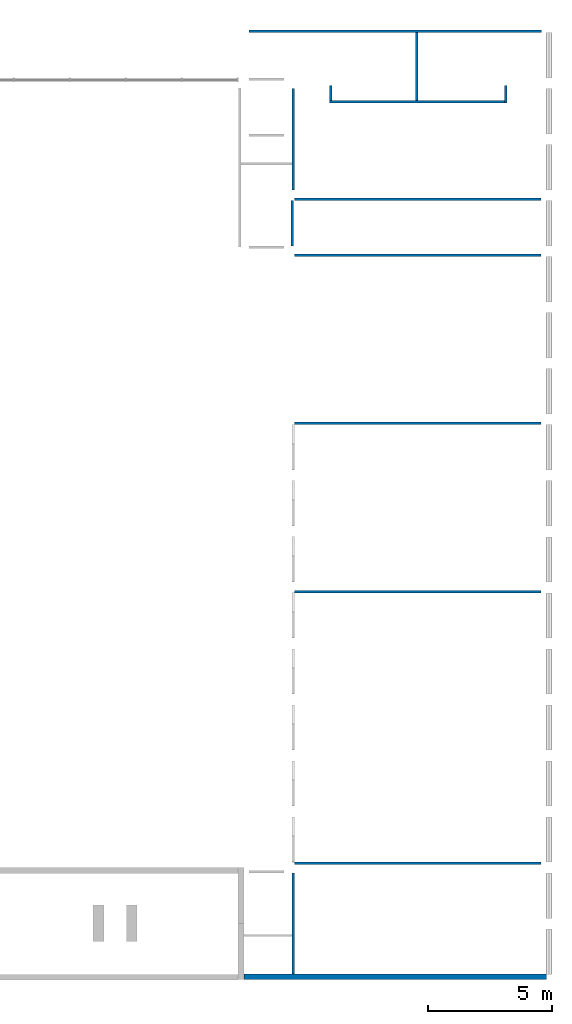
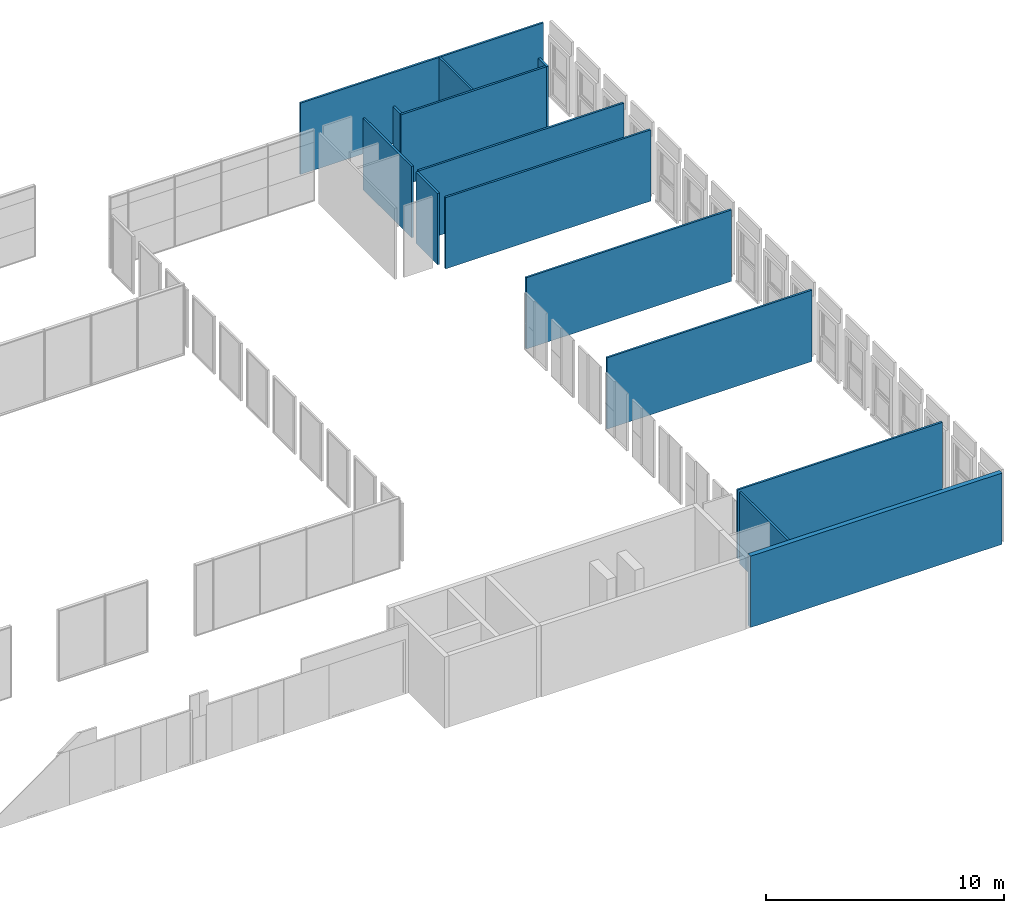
# One storey, part 12 of 15: 14 walls.
"""IFC2X3 building model written with IfcOpenShell, lengths in millimetres."""

from ifc_helpers import new_model, entity, si_unit, converted_unit, derived_unit, direction, frame, frame_2d, origin, place, context, subcontext, project, spatial, polyline, rectangle, extrude, clip, bounded_halfspace, material, layer, layer_set, layer_usage, type_object, element, save


model = new_model("IFC2X3")

# Units and contexts
model_context = context("Model", 3, precision=0.01, world=origin(), true_north=direction((6.12303176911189e-17, 1.0)))
body_context = subcontext(model_context, "Body", "Model", "MODEL_VIEW")
ifc_project = project(units=[si_unit("LENGTHUNIT", "METRE", prefix="MILLI"), si_unit("AREAUNIT", "SQUARE_METRE"), si_unit("VOLUMEUNIT", "CUBIC_METRE"), converted_unit("PLANEANGLEUNIT", "DEGREE", entity("IfcRatioMeasure", 0.0174532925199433), si_unit("PLANEANGLEUNIT", "RADIAN"), dimensions=[0, 0, 0, 0, 0, 0, 0]), si_unit("MASSUNIT", "GRAM", prefix="KILO"), derived_unit("MASSDENSITYUNIT", [(si_unit("MASSUNIT", "GRAM", prefix="KILO"), 1), (si_unit("LENGTHUNIT", "METRE"), -3)]), derived_unit("MOMENTOFINERTIAUNIT", [(si_unit("LENGTHUNIT", "METRE"), 4)]), si_unit("TIMEUNIT", "SECOND"), si_unit("FREQUENCYUNIT", "HERTZ"), si_unit("THERMODYNAMICTEMPERATUREUNIT", "DEGREE_CELSIUS"), derived_unit("THERMALTRANSMITTANCEUNIT", [(si_unit("MASSUNIT", "GRAM", prefix="KILO"), 1), (si_unit("THERMODYNAMICTEMPERATUREUNIT", "KELVIN"), -1), (si_unit("TIMEUNIT", "SECOND"), -3)]), derived_unit("VOLUMETRICFLOWRATEUNIT", [(si_unit("LENGTHUNIT", "METRE"), 3), (si_unit("TIMEUNIT", "SECOND"), -1)]), si_unit("ELECTRICCURRENTUNIT", "AMPERE"), si_unit("ELECTRICVOLTAGEUNIT", "VOLT"), si_unit("POWERUNIT", "WATT"), si_unit("FORCEUNIT", "NEWTON", prefix="KILO"), si_unit("ILLUMINANCEUNIT", "LUX"), si_unit("LUMINOUSFLUXUNIT", "LUMEN"), si_unit("LUMINOUSINTENSITYUNIT", "CANDELA"), derived_unit("USERDEFINED", [(si_unit("MASSUNIT", "GRAM", prefix="KILO"), -1), (si_unit("LENGTHUNIT", "METRE"), -2), (si_unit("TIMEUNIT", "SECOND"), 3), (si_unit("LUMINOUSFLUXUNIT", "LUMEN"), 1)]), derived_unit("LINEARVELOCITYUNIT", [(si_unit("LENGTHUNIT", "METRE"), 1), (si_unit("TIMEUNIT", "SECOND"), -1)]), si_unit("PRESSUREUNIT", "PASCAL"), derived_unit("USERDEFINED", [(si_unit("LENGTHUNIT", "METRE"), -2), (si_unit("MASSUNIT", "GRAM", prefix="KILO"), 1), (si_unit("TIMEUNIT", "SECOND"), -2)]), derived_unit("LINEARFORCEUNIT", [(si_unit("MASSUNIT", "GRAM", prefix="KILO"), 1), (si_unit("LENGTHUNIT", "METRE"), 1), (si_unit("TIMEUNIT", "SECOND"), -2), (si_unit("LENGTHUNIT", "METRE"), -1)]), derived_unit("PLANARFORCEUNIT", [(si_unit("MASSUNIT", "GRAM", prefix="KILO"), 1), (si_unit("LENGTHUNIT", "METRE"), 1), (si_unit("TIMEUNIT", "SECOND"), -2), (si_unit("LENGTHUNIT", "METRE"), -2)])], contexts=[model_context])

# Site, building, storey
site_placement = place(None, frame((10627.5135316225, 21939.0796949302, 0.0)))
site = spatial("IfcSite", under=ifc_project, at=site_placement, Name="Default", CompositionType="ELEMENT")
building_placement = place(site_placement, origin())
building = spatial("IfcBuilding", under=site, at=building_placement, CompositionType="ELEMENT")
storey_placement = place(building_placement, origin())
storey = spatial("IfcBuildingStorey", under=building, at=storey_placement, Name="RDC", CompositionType="ELEMENT", Elevation=0.0)

# Walls
ifc_material_1 = material(Name="Paint - White Lining")
ifc_layer_1 = layer(ifc_material_1, 3.0)
ifc_material_2 = material(Name="Concrete Masonry Units")
ifc_layer_2 = layer(ifc_material_2, 94.0)
ifc_layer_3 = layer(ifc_material_1, 3.0)
ifc_layer_set_1 = layer_set([ifc_layer_1, ifc_layer_2, ifc_layer_3], Name="Basic Wall:Wall-Int 100")
ifc_layer_usage_1 = layer_usage(ifc_layer_set_1, "AXIS2", "NEGATIVE", 50.0)
wall_type_1 = type_object("IfcWallType", Name="Basic Wall:Wall-Int 100", PredefinedType="STANDARD", material=ifc_layer_set_1)
wall_1_placement = place(storey_placement, frame((53565.4864683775, -17634.0796949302, 0.0), z_axis=(0.0, 0.0, 1.0), x_axis=(0.0, -1.0, 0.0)))
element("IfcWallStandardCase", 1, at=wall_1_placement, inside=storey, type_object=wall_type_1, material=ifc_layer_usage_1, Name="Basic Wall:Wall-Int 100", ObjectType="Basic Wall:Wall-Int 100", context=body_context, shape_type="SweptSolid", body=[
    extrude(rectangle(XDim=4075.00000000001, YDim=99.9999999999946, at=frame_2d((2037.5, -1.4210854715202e-14), x_axis=(-1.0, 0.0))), origin(), (0.0, 0.0, 1.0), 3660.0),
])
ifc_layer_usage_2 = layer_usage(ifc_layer_set_1, "AXIS2", "POSITIVE", -50.0)
wall_2_placement = place(storey_placement, frame((53615.4864683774, 495.920305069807, 0.0)))
element("IfcWallStandardCase", 2, at=wall_2_placement, inside=storey, type_object=wall_type_1, material=ifc_layer_usage_2, Name="Basic Wall:Wall-Int 100", ObjectType="Basic Wall:Wall-Int 100", context=body_context, shape_type="SweptSolid", body=[
    extrude(rectangle(XDim=9954.00000000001, YDim=100.0, at=frame_2d((4977.0, 0.0), x_axis=(-1.0, 0.0))), origin(), (0.0, 0.0, 1.0), 3660.0),
])
ifc_layer_usage_3 = layer_usage(ifc_layer_set_1, "AXIS2", "NEGATIVE", 50.0)
wall_3_placement = place(storey_placement, frame((53520.1232861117, 7655.92030506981, 0.0), z_axis=(0.0, 0.0, 1.0), x_axis=(0.0, 1.0, 0.0)))
element("IfcWallStandardCase", 3, at=wall_3_placement, inside=storey, type_object=wall_type_1, material=ifc_layer_usage_3, Name="Basic Wall:Wall-Int 100", ObjectType="Basic Wall:Wall-Int 100", context=body_context, shape_type="SweptSolid", body=[
    extrude(rectangle(XDim=1830.0, YDim=99.9999999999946, at=frame_2d((915.0, 0.0), x_axis=(-1.0, 0.0))), origin(), (0.0, 0.0, 1.0), 3660.0),
])
ifc_layer_usage_4 = layer_usage(ifc_layer_set_1, "AXIS2", "POSITIVE", -50.0)
wall_4_placement = place(storey_placement, frame((53615.4864683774, 9535.92030506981, 0.0)))
element("IfcWallStandardCase", 4, at=wall_4_placement, inside=storey, type_object=wall_type_1, material=ifc_layer_usage_4, Name="Basic Wall:Wall-Int 100", ObjectType="Basic Wall:Wall-Int 100", context=body_context, shape_type="SweptSolid", body=[
    extrude(rectangle(XDim=9951.99999999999, YDim=99.9999999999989, at=frame_2d((4975.99999999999, 0.0), x_axis=(-1.0, 0.0))), origin(), (0.0, 0.0, 1.0), 3660.0),
])
ifc_layer_usage_5 = layer_usage(ifc_layer_set_1, "AXIS2", "NEGATIVE", 50.0)
wall_5_placement = place(storey_placement, frame((63568.4864683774, 7275.92030506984, 0.0), z_axis=(0.0, 0.0, 1.0), x_axis=(-1.0, 0.0, 0.0)))
element("IfcWallStandardCase", 5, at=wall_5_placement, inside=storey, type_object=wall_type_1, material=ifc_layer_usage_5, Name="Basic Wall:Wall-Int 100", ObjectType="Basic Wall:Wall-Int 100", context=body_context, shape_type="SweptSolid", body=[
    extrude(rectangle(XDim=9952.0, YDim=99.9999999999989, at=frame_2d((4976.0, 0.0), x_axis=(-1.0, 0.0))), origin(), (0.0, 0.0, 1.0), 3660.0),
])
ifc_layer_usage_6 = layer_usage(ifc_layer_set_1, "AXIS2", "POSITIVE", -50.0)
wall_6_placement = place(storey_placement, frame((53565.4864683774, 9915.92030506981, 0.0), z_axis=(0.0, 0.0, 1.0), x_axis=(0.0, 1.0, 0.0)))
element("IfcWallStandardCase", 6, at=wall_6_placement, inside=storey, type_object=wall_type_1, material=ifc_layer_usage_6, Name="Basic Wall:Wall-Int 100", ObjectType="Basic Wall:Wall-Int 100", context=body_context, shape_type="SweptSolid", body=[
    extrude(rectangle(XDim=4090.0, YDim=99.9999999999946, at=frame_2d((2045.0, 0.0), x_axis=(-1.0, 0.0))), origin(), (0.0, 0.0, 1.0), 3660.0),
])
ifc_layer_usage_7 = layer_usage(ifc_layer_set_1, "AXIS2", "NEGATIVE", 50.0)
wall_7_placement = place(storey_placement, frame((62135.1334675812, 14119.2390047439, 0.0), z_axis=(0.0, 0.0, 1.0), x_axis=(0.0, -1.0, 0.0)))
element("IfcWallStandardCase", 7, at=wall_7_placement, inside=storey, type_object=wall_type_1, material=ifc_layer_usage_7, Name="Basic Wall:Wall-Int 100", ObjectType="Basic Wall:Wall-Int 100", context=body_context, shape_type="SweptSolid", body=[
    extrude(rectangle(XDim=700.02294544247, YDim=99.9999999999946, at=frame_2d((350.011472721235, 0.0), x_axis=(-1.0, 0.0))), origin(), (0.0, 0.0, 1.0), 3660.0),
])
ifc_layer_usage_8 = layer_usage(ifc_layer_set_1, "AXIS2", "NEGATIVE", 50.0)
wall_8_placement = place(storey_placement, frame((62085.1334675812, 13469.2160593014, 0.0), z_axis=(0.0, 0.0, 1.0), x_axis=(-1.0, 0.0, 0.0)))
element("IfcWallStandardCase", 8, at=wall_8_placement, inside=storey, type_object=wall_type_1, material=ifc_layer_usage_8, Name="Basic Wall:Wall-Int 100", ObjectType="Basic Wall:Wall-Int 100", context=body_context, shape_type="SweptSolid", body=[
    extrude(rectangle(XDim=7055.00849887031, YDim=99.9999999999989, at=frame_2d((3527.50424943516, -8.5265128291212e-14), x_axis=(-1.0, 0.0))), origin(), (0.0, 0.0, 1.0), 3660.0),
])
ifc_layer_usage_9 = layer_usage(ifc_layer_set_1, "AXIS2", "NEGATIVE", 50.0)
wall_9_placement = place(storey_placement, frame((55080.1249687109, 13519.2160593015, 0.0), z_axis=(0.0, 0.0, 1.0), x_axis=(0.0, 1.0, 0.0)))
element("IfcWallStandardCase", 9, at=wall_9_placement, inside=storey, type_object=wall_type_1, material=ifc_layer_usage_9, Name="Basic Wall:Wall-Int 100", ObjectType="Basic Wall:Wall-Int 100", context=body_context, shape_type="SweptSolid", body=[
    extrude(rectangle(XDim=600.00083411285, YDim=99.9999999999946, at=frame_2d((300.000417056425, 0.0), x_axis=(-1.0, 0.0))), origin(), (0.0, 0.0, 1.0), 3660.0),
])
ifc_layer_usage_10 = layer_usage(ifc_layer_set_1, "AXIS2", "POSITIVE", -50.0)
wall_10_placement = place(storey_placement, frame((51787.4864683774, 16315.9203050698, 0.0)))
element("IfcWallStandardCase", 10, at=wall_10_placement, inside=storey, type_object=wall_type_1, material=ifc_layer_usage_10, Name="Basic Wall:Wall-Int 100", ObjectType="Basic Wall:Wall-Int 100", context=body_context, shape_type="SweptSolid", body=[
    extrude(rectangle(XDim=11800.0, YDim=99.9999999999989, at=frame_2d((5900.0, -7.46069872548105e-14), x_axis=(-1.0, 0.0))), origin(), (0.0, 0.0, 1.0), 3660.0),
])
ifc_layer_usage_11 = layer_usage(ifc_layer_set_1, "AXIS2", "POSITIVE", -50.0)
wall_11_placement = place(storey_placement, frame((58557.6292181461, 13519.2160593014, 0.0), z_axis=(0.0, 0.0, 1.0), x_axis=(0.0, 1.0, 0.0)))
element("IfcWallStandardCase", 11, at=wall_11_placement, inside=storey, type_object=wall_type_1, material=ifc_layer_usage_11, Name="Basic Wall:Wall-Int 100", ObjectType="Basic Wall:Wall-Int 100", context=body_context, shape_type="SweptSolid", body=[
    extrude(rectangle(XDim=2746.70424576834, YDim=99.9999999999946, at=frame_2d((1373.35212288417, -1.49213974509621e-13), x_axis=(-1.0, 0.0))), origin(), (0.0, 0.0, 1.0), 3660.0),
])
ifc_layer_usage_12 = layer_usage(ifc_layer_set_1, "AXIS2", "NEGATIVE", 50.0)
wall_12_placement = place(storey_placement, frame((63569.4864683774, -6284.07969493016, 0.0), z_axis=(0.0, 0.0, 1.0), x_axis=(-1.0, 0.0, 0.0)))
element("IfcWallStandardCase", 12, at=wall_12_placement, inside=storey, type_object=wall_type_1, material=ifc_layer_usage_12, Name="Basic Wall:Wall-Int 100", ObjectType="Basic Wall:Wall-Int 100", context=body_context, shape_type="SweptSolid", body=[
    extrude(rectangle(XDim=9954.0, YDim=99.9999999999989, at=frame_2d((4977.0, 0.0), x_axis=(-1.0, 0.0))), origin(), (0.0, 0.0, 1.0), 3660.0),
])
ifc_layer_usage_13 = layer_usage(ifc_layer_set_1, "AXIS2", "NEGATIVE", 50.0)
wall_13_placement = place(storey_placement, frame((53615.1232861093, -17254.0796949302, 0.0)))
element("IfcWallStandardCase", 13, at=wall_13_placement, inside=storey, type_object=wall_type_1, material=ifc_layer_usage_13, Name="Basic Wall:Wall-Int 100", ObjectType="Basic Wall:Wall-Int 100", context=body_context, shape_type="Clipping", body=[
    clip(extrude(rectangle(XDim=9952.36318226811, YDim=99.9999999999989, at=frame_2d((4976.18159113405, 0.0), x_axis=(-1.0, 0.0))), origin(), (0.0, 0.0, 1.0), 3530.0), bounded_halfspace(frame((0.0, -50.0, 3530.0), z_axis=(0.0, 0.0, -1.0), x_axis=(-1.0, 0.0, 0.0)), True, frame((0.0, -50.0, 3530.0)), polyline([(0.0, 0.0), (9952.36318226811, 0.0), (9952.36318226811, 100.0), (0.0, 100.0), (0.0, 0.0)]))),
])
ifc_layer_4 = layer(ifc_material_1, 15.0)
ifc_material_3 = material(Name="Concrete - Precast Concrete - 35 MPa")
ifc_layer_5 = layer(ifc_material_3, 200.0)
ifc_layer_6 = layer(ifc_material_1, 15.0)
ifc_layer_set_2 = layer_set([ifc_layer_4, ifc_layer_5, ifc_layer_6], Name="Basic Wall:Mur200PentureBlanche 2")
ifc_layer_usage_14 = layer_usage(ifc_layer_set_2, "AXIS2", "NEGATIVE", 115.0)
wall_type_2 = type_object("IfcWallType", Name="Basic Wall:Mur200PentureBlanche 2", PredefinedType="STANDARD", material=ifc_layer_set_2)
wall_14_placement = place(storey_placement, frame((51572.4864683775, -21824.0796949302, 0.0)))
element("IfcWallStandardCase", 14, at=wall_14_placement, inside=storey, type_object=wall_type_2, material=ifc_layer_usage_14, Name="Basic Wall:Mur200PentureBlanche 2", ObjectType="Basic Wall:Mur200PentureBlanche 2", context=body_context, shape_type="SweptSolid", body=[
    extrude(rectangle(XDim=12210.0, YDim=230.0, at=frame_2d((6105.00000000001, -1.77635683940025e-13), x_axis=(-1.0, 0.0))), origin(), (0.0, 0.0, 1.0), 3660.0),
])

save(model, "model.ifc")
